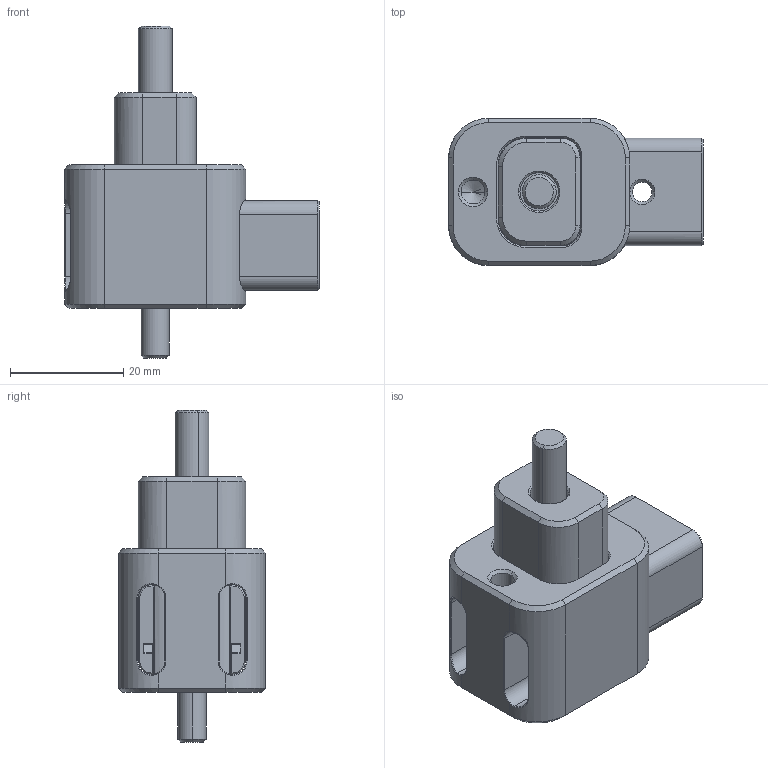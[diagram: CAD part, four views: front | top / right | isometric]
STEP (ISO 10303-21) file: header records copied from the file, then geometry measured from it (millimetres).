
FILE_DESCRIPTION (( 'STEP AP214' ), '1' );
FILE_NAME ('CAMM-200.STEP', '2012-02-20T18:23:35', ( 'Progressive Components' ), ( 'Progressive Components' ), 'SwSTEP 2.0', 'SolidWorks 2010', '' );
FILE_SCHEMA (( 'AUTOMOTIVE_DESIGN' ));
Length unit declared in the file: millimetre
Products named in the file (6): CAMM-100-H; CA-200-S; CAMM-200-D; M5X10 LHCS; M6X40; CAMM-200
Assembly tree (5 placements, depth 2):
  CAMM-200
    CAMM-100-H
    CA-200-S
    CAMM-200-D
    M5X10 LHCS
    M6X40
Bounding box: 44.99 x 26.01 x 58.69 mm (x, y, z)
Volume: 22882.4 mm3; surface area: 14652 mm2
Topology: 5 solids, 5 shells, 321 faces, 781 edges, 470 vertices
Faces by surface type: plane 159, cylinder 76, cone 52, torus 18, bspline 16
Entity records: 11724 total; most frequent: CARTESIAN_POINT 3986, DIRECTION 1578, ORIENTED_EDGE 1554, EDGE_CURVE 777, AXIS2_PLACEMENT_3D 542, LINE 494, VECTOR 494, VERTEX_POINT 470
